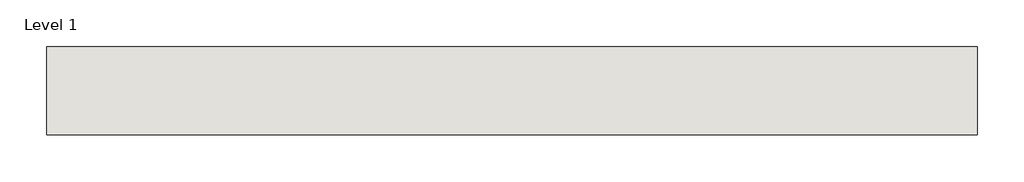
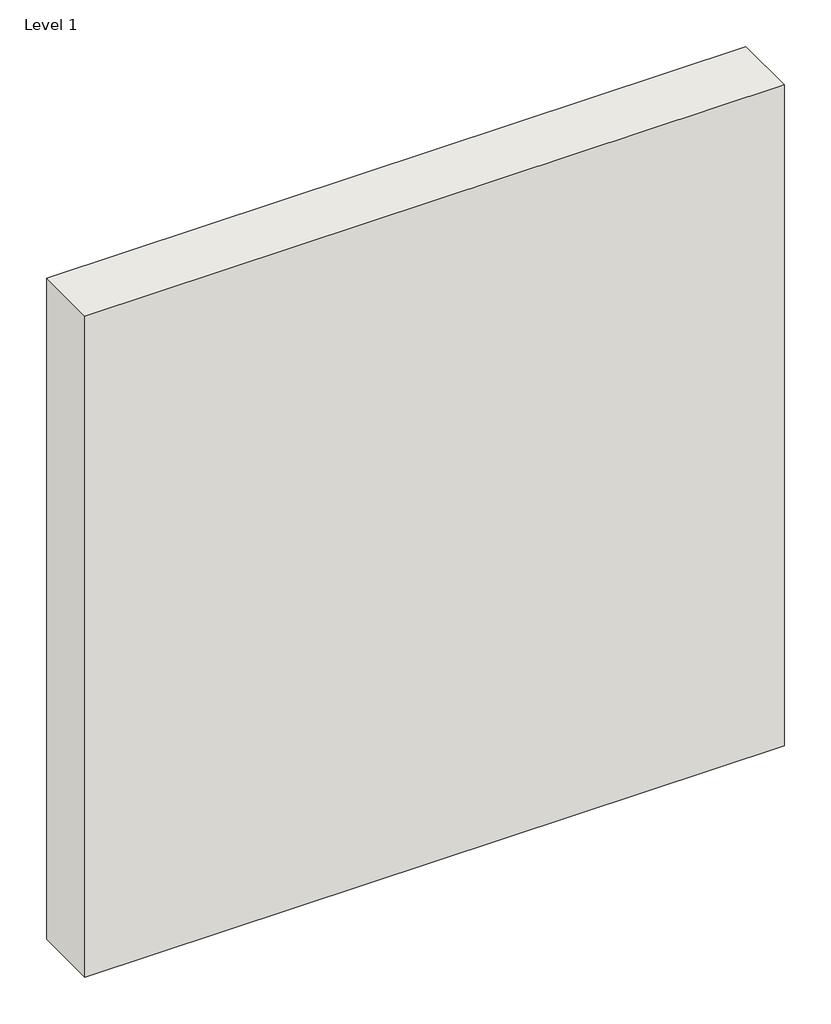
# One storey: 1 wall.
"""IFC4 building model written with IfcOpenShell, lengths in millimetres."""

from ifc_helpers import new_model, si_unit, origin, origin_with_axes, place, context, project, spatial, polyline, outline, extrude, element, save

model = new_model("IFC4")

# Units and contexts
model_context = context("Model", 3, world=origin())
ifc_project = project(units=[si_unit("LENGTHUNIT", "METRE", prefix="MILLI")], contexts=[model_context])

# Site, building, storey
site = spatial("IfcSite", under=ifc_project)
building = spatial("IfcBuilding", under=site)
storey = spatial("IfcBuildingStorey", under=building, Name="Level 1", Elevation=0.0)

# Wall
placement = place(None, origin())
element("IfcWall", 1, ObjectType="GYPTEC-REVESTIMENTO 95 BA13A", at=placement, inside=storey, context=model_context, shape_type="SweptSolid", body=[
    extrude(outline(polyline([(1000.0, 1.5), (0.0, 1.5), (0.0, 96.5), (1000.0, 96.5), (1000.0, 1.5)])), origin_with_axes(), (0.0, 0.0, 1.0), 1000.0),
])

save(model, "model.ifc")
